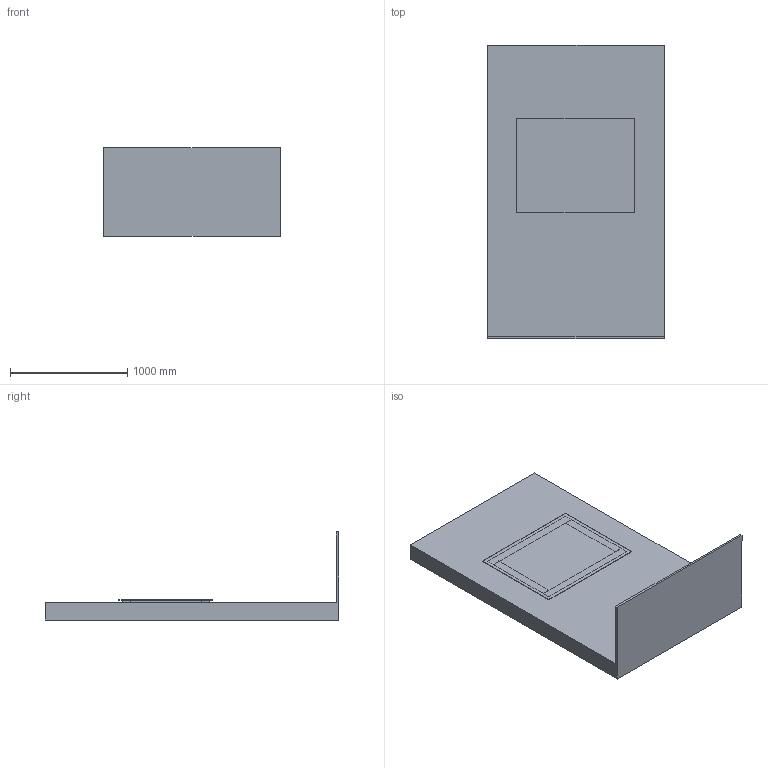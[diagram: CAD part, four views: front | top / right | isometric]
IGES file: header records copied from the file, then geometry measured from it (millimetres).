
Global section: file name: 3D Dosyası 100 cm,; native system: Autodesk Inventor 2024; preprocessor: unknown; author: pcs35; date: 20250627.131143; units: millimetre
Bounding box: 1500 x 2500 x 750 mm (x, y, z)
Volume: 587587071.2 mm3; surface area: 12706418.3 mm2
Topology: 20 solids, 20 shells, 1224 faces, 3044 edges, 1802 vertices
Faces by surface type: bspline 1224
